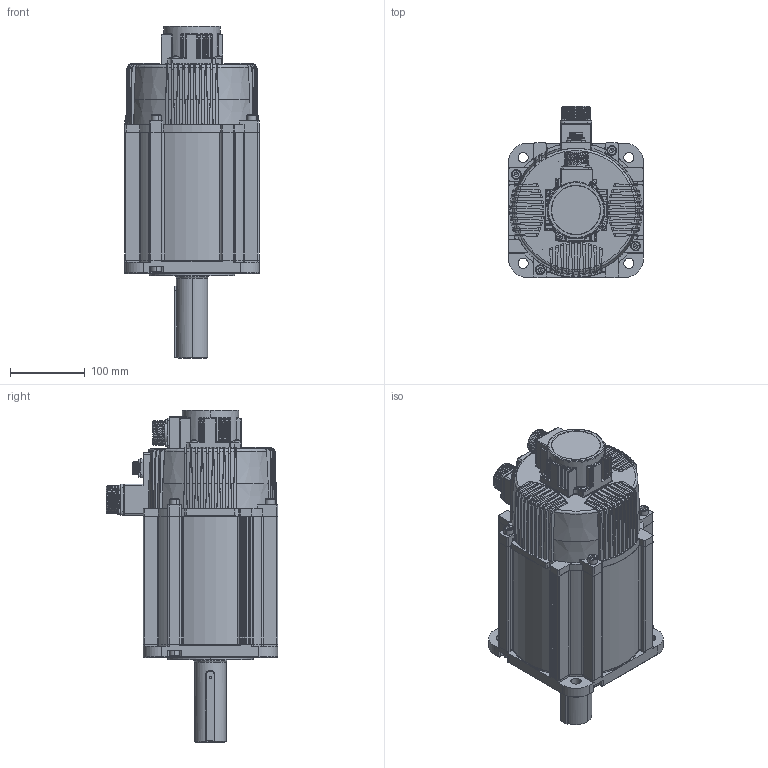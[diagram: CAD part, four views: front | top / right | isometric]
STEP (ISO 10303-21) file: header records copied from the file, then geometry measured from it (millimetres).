
FILE_DESCRIPTION (( 'STEP AP214' ), '1' );
FILE_NAME ('BMR-G75C18015-湍惕掅(V1.0).STEP', '2025-09-18T09:45:00', ( 'PC' ), ( 'Microsoft' ), 'SwSTEP 2.0', 'SolidWorks 2018', '' );
FILE_SCHEMA (( 'AUTOMOTIVE_DESIGN' ));
Length unit declared in the file: millimetre
Products named in the file (9): 42粣.STEP; hexagon socket head cap screws gb_GB_FASTENER_SCREWS_HSHCS M4X6-N; WA180ST油封 45×58×7; WB180ST-Z1M48015 YD 42-113; 42粣扥瑩; YD32瑤脣; BMR-G75C18015-湍惕掅(V1.0); SF20818000X 前端盖（加工）6209_0918; 砎蝶菜
Assembly tree (11 placements, depth 2):
  BMR-G75C18015-湍惕掅(V1.0)
    WB180ST-Z1M48015 YD 42-113
    砎蝶菜
    SF20818000X 前端盖（加工）6209_0918
    42粣.STEP
    42粣扥瑩
    YD32瑤脣
    hexagon socket head cap screws gb_GB_FASTENER_SCREWS_HSHCS M4X6-N  x4
    WA180ST油封 45×58×7
Bounding box: 180 x 229 x 444 mm (x, y, z)
Volume: 2227179 mm3; surface area: 712543.7 mm2
Topology: 39 solids, 39 shells, 2803 faces, 7320 edges, 4595 vertices
Faces by surface type: plane 1154, cylinder 991, cone 248, torus 214, bspline 117, sphere 79
Entity records: 107676 total; most frequent: CARTESIAN_POINT 38187, ORIENTED_EDGE 13972, DIRECTION 13498, EDGE_CURVE 6986, AXIS2_PLACEMENT_3D 5232, VERTEX_POINT 4469, VECTOR 3034, LINE 3034
